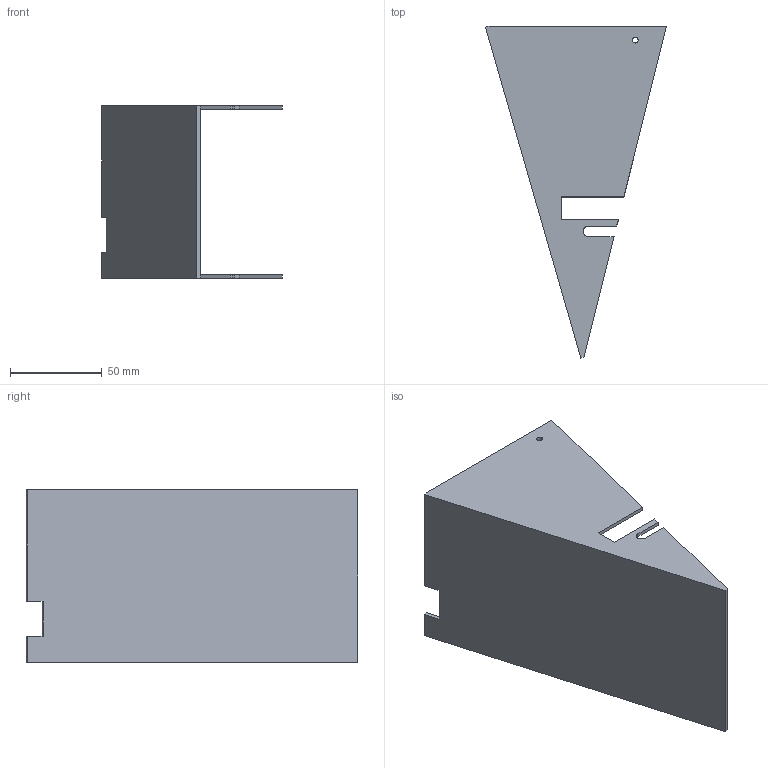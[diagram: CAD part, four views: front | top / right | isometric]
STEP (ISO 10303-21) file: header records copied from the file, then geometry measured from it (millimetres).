
FILE_DESCRIPTION (( 'STEP AP203' ), '1' );
FILE_NAME ('cover robot^no horni bot.STEP', '2024-12-26T18:54:49', ( '' ), ( '' ), 'SwSTEP 2.0', 'SolidWorks 2019', '' );
FILE_SCHEMA (( 'CONFIG_CONTROL_DESIGN' ));
Length unit declared in the file: millimetre
Products named in the file (1): cover robot^no horni bot
Bounding box: 98.39 x 180.36 x 94 mm (x, y, z)
Volume: 67487.7 mm3; surface area: 69456.3 mm2
Topology: 1 solids, 1 shells, 36 faces, 98 edges, 64 vertices
Faces by surface type: plane 30, cylinder 6
Entity records: 1207 total; most frequent: CARTESIAN_POINT 199, ORIENTED_EDGE 196, DIRECTION 184, EDGE_CURVE 98, VECTOR 86, LINE 86, VERTEX_POINT 64, AXIS2_PLACEMENT_3D 49
